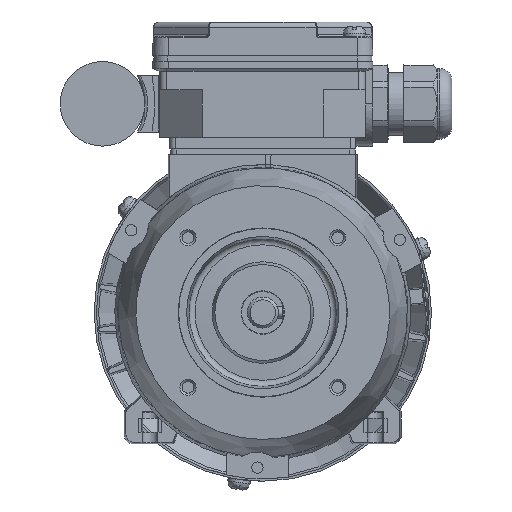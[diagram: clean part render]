
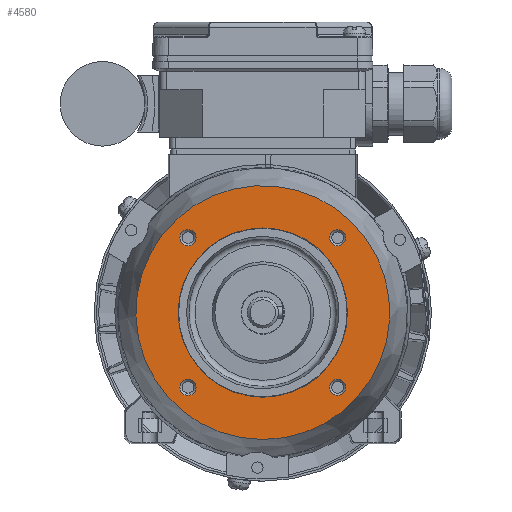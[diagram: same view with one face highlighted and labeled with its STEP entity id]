
A CAD part, left-side view. The second image highlights one B-rep face of the part: STEP entity #4580.
In plain terms, the highlighted planar face has unit normal (-1, 0, 0) as drawn and (0, -1, 0) by its records, which use the part's own axes.
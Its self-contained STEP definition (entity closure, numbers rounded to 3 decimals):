
#4580 = ADVANCED_FACE( '', ( #9406, #9407, #9408, #9409, #9410, #9411 ), #9412, .T. );
#9406 = FACE_BOUND( '', #21329, .T. );
#9407 = FACE_BOUND( '', #21330, .T. );
#9408 = FACE_BOUND( '', #21331, .T. );
#9409 = FACE_BOUND( '', #21332, .T. );
#9410 = FACE_OUTER_BOUND( '', #21333, .T. );
#9411 = FACE_BOUND( '', #21334, .T. );
#9412 = PLANE( '', #21335 );
#21329 = EDGE_LOOP( '', ( #35446 ) );
#21330 = EDGE_LOOP( '', ( #35447 ) );
#21331 = EDGE_LOOP( '', ( #35448 ) );
#21332 = EDGE_LOOP( '', ( #35449 ) );
#21333 = EDGE_LOOP( '', ( #35450 ) );
#21334 = EDGE_LOOP( '', ( #35451 ) );
#21335 = AXIS2_PLACEMENT_3D( '', #35452, #35453, #35454 );
#35446 = ORIENTED_EDGE( '', *, *, #43011, .T. );
#35447 = ORIENTED_EDGE( '', *, *, #45384, .T. );
#35448 = ORIENTED_EDGE( '', *, *, #44372, .T. );
#35449 = ORIENTED_EDGE( '', *, *, #45344, .T. );
#35450 = ORIENTED_EDGE( '', *, *, #40733, .T. );
#35451 = ORIENTED_EDGE( '', *, *, #45245, .F. );
#35452 = CARTESIAN_POINT( '', ( 0., 2.5, 30. ) );
#35453 = DIRECTION( '', ( 0., -1., 0. ) );
#35454 = DIRECTION( '', ( 0., 0., -1. ) );
#40733 = EDGE_CURVE( '', #47717, #47717, #47718, .T. );
#43011 = EDGE_CURVE( '', #51568, #51568, #51569, .F. );
#44372 = EDGE_CURVE( '', #53618, #53618, #53619, .F. );
#45245 = EDGE_CURVE( '', #54767, #54767, #54768, .T. );
#45344 = EDGE_CURVE( '', #54896, #54896, #54897, .F. );
#45384 = EDGE_CURVE( '', #54941, #54941, #54942, .F. );
#47717 = VERTEX_POINT( '', #57021 );
#47718 = CIRCLE( '', #57022, 45. );
#51568 = VERTEX_POINT( '', #66009 );
#51569 = CIRCLE( '', #66010, 2.867 );
#53618 = VERTEX_POINT( '', #69703 );
#53619 = CIRCLE( '', #69704, 2.867 );
#54767 = VERTEX_POINT( '', #72734 );
#54768 = CIRCLE( '', #72735, 30. );
#54896 = VERTEX_POINT( '', #72956 );
#54897 = CIRCLE( '', #72957, 2.867 );
#54941 = VERTEX_POINT( '', #73101 );
#54942 = CIRCLE( '', #73102, 2.867 );
#57021 = CARTESIAN_POINT( '', ( 0., 2.5, -45. ) );
#57022 = AXIS2_PLACEMENT_3D( '', #76170, #76171, #76172 );
#66009 = CARTESIAN_POINT( '', ( -26.517, 2.5, -29.384 ) );
#66010 = AXIS2_PLACEMENT_3D( '', #78716, #78717, #78718 );
#69703 = CARTESIAN_POINT( '', ( 26.517, 2.5, 23.65 ) );
#69704 = AXIS2_PLACEMENT_3D( '', #80510, #80511, #80512 );
#72734 = CARTESIAN_POINT( '', ( 0., 2.5, -30. ) );
#72735 = AXIS2_PLACEMENT_3D( '', #81443, #81444, #81445 );
#72956 = CARTESIAN_POINT( '', ( -26.517, 2.5, 23.65 ) );
#72957 = AXIS2_PLACEMENT_3D( '', #81546, #81547, #81548 );
#73101 = CARTESIAN_POINT( '', ( 26.517, 2.5, -29.384 ) );
#73102 = AXIS2_PLACEMENT_3D( '', #81582, #81583, #81584 );
#76170 = CARTESIAN_POINT( '', ( 0., 2.5, 0. ) );
#76171 = DIRECTION( '', ( 0., -1., 0. ) );
#76172 = DIRECTION( '', ( 0., 0., -1. ) );
#78716 = CARTESIAN_POINT( '', ( -26.517, 2.5, -26.517 ) );
#78717 = DIRECTION( '', ( 0., -1., 0. ) );
#78718 = DIRECTION( '', ( 0., 0., -1. ) );
#80510 = CARTESIAN_POINT( '', ( 26.517, 2.5, 26.517 ) );
#80511 = DIRECTION( '', ( 0., -1., 0. ) );
#80512 = DIRECTION( '', ( 0., 0., -1. ) );
#81443 = CARTESIAN_POINT( '', ( 0., 2.5, 0. ) );
#81444 = DIRECTION( '', ( 0., -1., 0. ) );
#81445 = DIRECTION( '', ( 0., 0., -1. ) );
#81546 = CARTESIAN_POINT( '', ( -26.517, 2.5, 26.517 ) );
#81547 = DIRECTION( '', ( 0., -1., 0. ) );
#81548 = DIRECTION( '', ( 0., 0., -1. ) );
#81582 = CARTESIAN_POINT( '', ( 26.517, 2.5, -26.517 ) );
#81583 = DIRECTION( '', ( 0., -1., 0. ) );
#81584 = DIRECTION( '', ( 0., 0., -1. ) );
